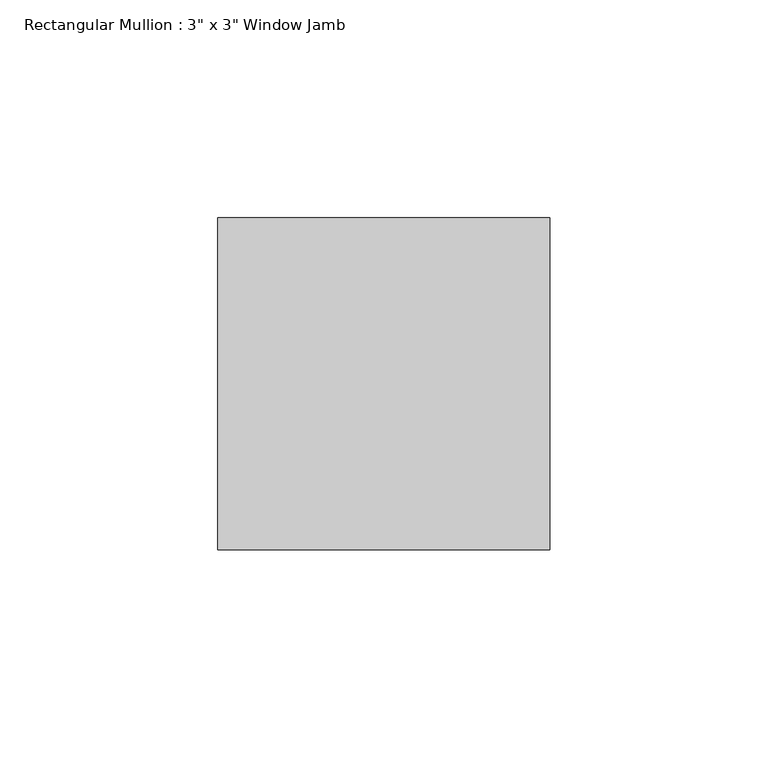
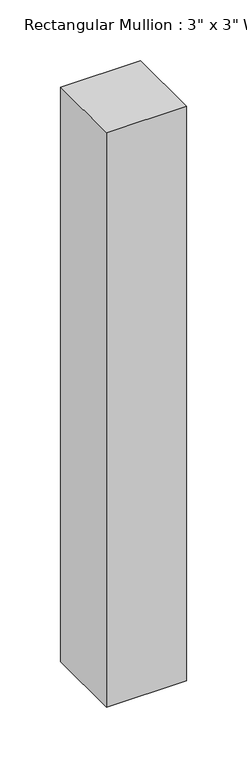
"""IFC4 building model written with IfcOpenShell, lengths in millimetres: member geometry."""

from ifc_helpers import new_model, si_unit, frame, origin, place, context, project, spatial, polyline, outline, extrude, source, transform, mapped, element, save


def member_c8ab9ee9(model_context):
    return source(origin(), model_context, "Body", "SweptSolid", [
        extrude(outline(polyline([(0.0, 50.8), (0.0, -25.4), (-76.2, -25.4), (-76.2, 50.8), (0.0, 50.8)])), frame((0.0, 0.0, -578.5010646), z_axis=(0.0, 0.0, 1.0), x_axis=(1.0, 0.0, 0.0)), (0.0, 0.0, 1.0), 578.5010646),
    ])


if __name__ == "__main__":
    model = new_model("IFC4")
    model_context = context("Model", 3, world=origin())
    ifc_project = project(units=[si_unit("LENGTHUNIT", "METRE", prefix="MILLI")], contexts=[model_context])
    site = spatial("IfcSite", under=ifc_project)
    building = spatial("IfcBuilding", under=site)
    placement = place(None, origin())
    member_shape = member_c8ab9ee9(model_context)
    element("IfcMember", 1, ObjectType="Rectangular Mullion : 3\" x 3\" Window Jamb", at=placement, inside=building, context=model_context, shape_type="MappedRepresentation", body=[
        mapped(member_shape, transform((0.0, 0.0, 0.0), x_axis=(1.0, 0.0, 0.0), y_axis=(0.0, 1.0, 0.0), z_axis=(0.0, 0.0, 1.0))),
    ])
    save(model, "model.ifc")
